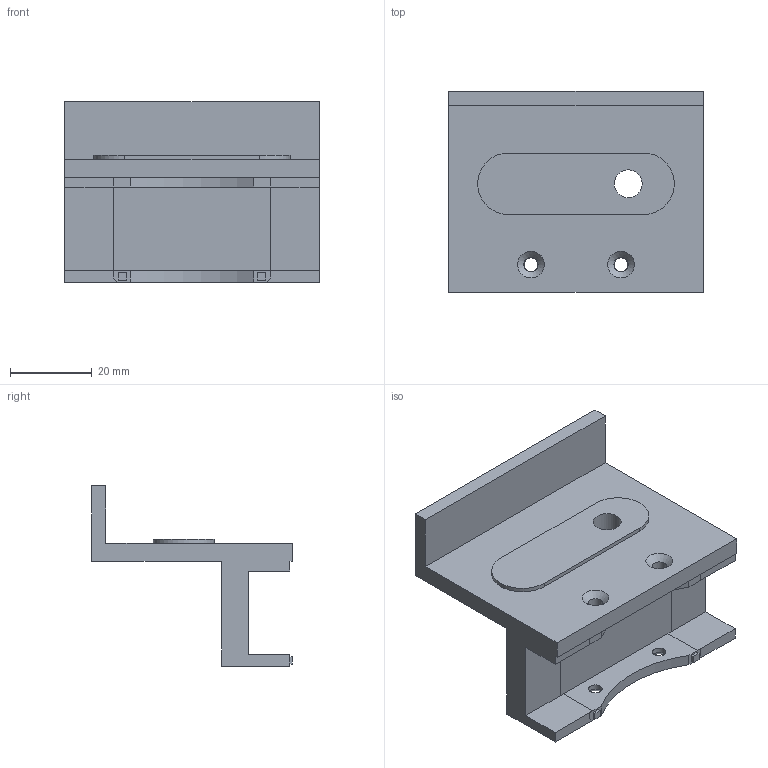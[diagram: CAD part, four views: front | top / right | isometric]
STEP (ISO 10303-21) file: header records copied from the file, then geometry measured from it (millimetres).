
FILE_DESCRIPTION(('Open CASCADE Model'),'2;1');
FILE_NAME('Open CASCADE Shape Model','2026-09-23T09:17:02',('Author'),( 'Open CASCADE'),'Open CASCADE STEP processor 7.9','Open CASCADE 7.9' ,'Unknown');
FILE_SCHEMA(('AUTOMOTIVE_DESIGN { 1 0 10303 214 1 1 1 1 }'));
Length unit declared in the file: millimetre
Products named in the file (1): Open CASCADE STEP translator 7.9 1
Bounding box: 62.1 x 49 x 44 mm (x, y, z)
Volume: 29797.5 mm3; surface area: 13971 mm2
Topology: 1 solids, 1 shells, 77 faces, 208 edges, 138 vertices
Faces by surface type: plane 59, cylinder 12, cone 6
Full cylindrical faces by diameter (mm): 3.3 x2, 3.5 x4, 6.8 x1
Entity records: 5956 total; most frequent: CARTESIAN_POINT 1895, DIRECTION 700, LINE 469, VECTOR 469, ORIENTED_EDGE 416, PCURVE 416, DEFINITIONAL_REPRESENTATION 416, EDGE_CURVE 208
